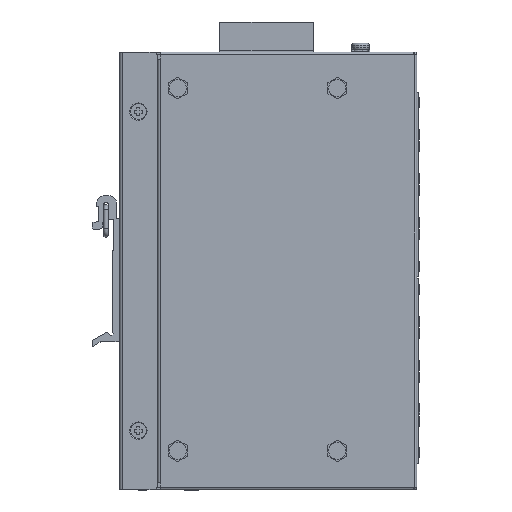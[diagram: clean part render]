
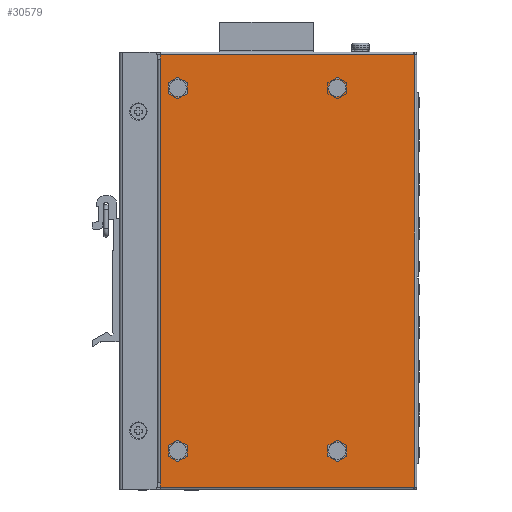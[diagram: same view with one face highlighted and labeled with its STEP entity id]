
A CAD part, left-side view. The second image highlights one B-rep face of the part: STEP entity #30579.
In plain terms, the highlighted planar face has unit normal (-1, 0, 0).
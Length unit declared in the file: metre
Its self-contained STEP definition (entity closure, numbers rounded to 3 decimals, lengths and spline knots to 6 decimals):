
#2657=LINE('',#52742,#5560);
#2660=LINE('',#52752,#5563);
#2754=LINE('',#53223,#5657);
#2758=LINE('',#53234,#5661);
#2761=LINE('',#53240,#5664);
#2763=LINE('',#53246,#5666);
#2768=LINE('',#53256,#5671);
#2769=LINE('',#53258,#5672);
#5560=VECTOR('',#41220,1.);
#5563=VECTOR('',#41229,1.);
#5657=VECTOR('',#41741,1.);
#5661=VECTOR('',#41753,1.);
#5664=VECTOR('',#41760,1.);
#5666=VECTOR('',#41768,1.);
#5671=VECTOR('',#41779,1.);
#5672=VECTOR('',#41782,1.);
#7139=PLANE('',#33757);
#14423=ORIENTED_EDGE('',*,*,#18935,.F.);
#14424=ORIENTED_EDGE('',*,*,#18933,.F.);
#14425=ORIENTED_EDGE('',*,*,#18931,.F.);
#14426=ORIENTED_EDGE('',*,*,#18929,.F.);
#14427=ORIENTED_EDGE('',*,*,#19221,.T.);
#14428=ORIENTED_EDGE('',*,*,#18994,.F.);
#14429=ORIENTED_EDGE('',*,*,#18989,.T.);
#14430=ORIENTED_EDGE('',*,*,#19214,.F.);
#14431=ORIENTED_EDGE('',*,*,#19211,.T.);
#14432=ORIENTED_EDGE('',*,*,#19208,.F.);
#14433=ORIENTED_EDGE('',*,*,#19202,.T.);
#14434=ORIENTED_EDGE('',*,*,#19220,.F.);
#18929=EDGE_CURVE('',#21973,#21973,#23503,.T.);
#18931=EDGE_CURVE('',#21975,#21975,#23505,.T.);
#18933=EDGE_CURVE('',#21977,#21977,#23507,.T.);
#18935=EDGE_CURVE('',#21979,#21979,#23509,.T.);
#18989=EDGE_CURVE('',#22017,#22018,#2657,.T.);
#18994=EDGE_CURVE('',#22017,#22021,#2660,.T.);
#19202=EDGE_CURVE('',#22189,#22188,#2754,.T.);
#19208=EDGE_CURVE('',#22189,#22191,#2758,.T.);
#19211=EDGE_CURVE('',#22193,#22191,#2761,.T.);
#19214=EDGE_CURVE('',#22193,#22018,#2763,.T.);
#19220=EDGE_CURVE('',#22195,#22188,#2768,.T.);
#19221=EDGE_CURVE('',#22195,#22021,#2769,.T.);
#21973=VERTEX_POINT('',#52618);
#21975=VERTEX_POINT('',#52623);
#21977=VERTEX_POINT('',#52628);
#21979=VERTEX_POINT('',#52633);
#22017=VERTEX_POINT('',#52743);
#22018=VERTEX_POINT('',#52744);
#22021=VERTEX_POINT('',#52753);
#22188=VERTEX_POINT('',#53220);
#22189=VERTEX_POINT('',#53224);
#22191=VERTEX_POINT('',#53231);
#22193=VERTEX_POINT('',#53241);
#22195=VERTEX_POINT('',#53255);
#23503=CIRCLE('',#33488,0.00275);
#23505=CIRCLE('',#33491,0.00275);
#23507=CIRCLE('',#33494,0.00275);
#23509=CIRCLE('',#33497,0.00275);
#25779=EDGE_LOOP('',(#14423));
#25780=EDGE_LOOP('',(#14424));
#25781=EDGE_LOOP('',(#14425));
#25782=EDGE_LOOP('',(#14426));
#25783=EDGE_LOOP('',(#14427,#14428,#14429,#14430,#14431,#14432,#14433,#14434));
#28199=FACE_BOUND('',#25779,.T.);
#28200=FACE_BOUND('',#25780,.T.);
#28201=FACE_BOUND('',#25781,.T.);
#28202=FACE_BOUND('',#25782,.T.);
#28203=FACE_BOUND('',#25783,.T.);
#30579=ADVANCED_FACE('',(#28199,#28200,#28201,#28202,#28203),#7139,.F.);
#33488=AXIS2_PLACEMENT_3D('',#52617,#41094,#41095);
#33491=AXIS2_PLACEMENT_3D('',#52622,#41100,#41101);
#33494=AXIS2_PLACEMENT_3D('',#52627,#41106,#41107);
#33497=AXIS2_PLACEMENT_3D('',#52632,#41112,#41113);
#33757=AXIS2_PLACEMENT_3D('',#53257,#41780,#41781);
#41094=DIRECTION('',(-1.,0.,0.));
#41095=DIRECTION('',(0.,1.,0.));
#41100=DIRECTION('',(-1.,0.,0.));
#41101=DIRECTION('',(0.,1.,0.));
#41106=DIRECTION('',(-1.,0.,0.));
#41107=DIRECTION('',(0.,1.,0.));
#41112=DIRECTION('',(-1.,0.,0.));
#41113=DIRECTION('',(0.,1.,0.));
#41220=DIRECTION('',(0.,0.,1.));
#41229=DIRECTION('',(0.,1.,0.));
#41741=DIRECTION('',(0.,0.,-1.));
#41753=DIRECTION('',(0.,0.,1.));
#41760=DIRECTION('',(0.,1.,0.));
#41768=DIRECTION('',(0.,-1.,0.));
#41779=DIRECTION('',(0.,0.,1.));
#41780=DIRECTION('',(1.,0.,0.));
#41781=DIRECTION('',(0.,1.,0.));
#41782=DIRECTION('',(0.,-1.,0.));
#52617=CARTESIAN_POINT('',(0.,-0.0216,-0.0575));
#52618=CARTESIAN_POINT('',(0.,-0.01885,-0.0575));
#52622=CARTESIAN_POINT('',(0.,0.0294,-0.0575));
#52623=CARTESIAN_POINT('',(0.,0.03215,-0.0575));
#52627=CARTESIAN_POINT('',(0.,-0.0216,0.0585));
#52628=CARTESIAN_POINT('',(0.,-0.01885,0.0585));
#52632=CARTESIAN_POINT('',(0.,0.0294,0.0585));
#52633=CARTESIAN_POINT('',(0.,0.03215,0.0585));
#52742=CARTESIAN_POINT('',(0.,-0.0462,-0.0692));
#52743=CARTESIAN_POINT('',(0.,-0.0462,-0.0692));
#52744=CARTESIAN_POINT('',(0.,-0.0462,0.0692));
#52752=CARTESIAN_POINT('',(0.,-0.0462,-0.0692));
#52753=CARTESIAN_POINT('',(0.,-0.046,-0.0692));
#53220=CARTESIAN_POINT('',(0.,0.035,-0.0677));
#53223=CARTESIAN_POINT('',(0.,0.035,0.0677));
#53224=CARTESIAN_POINT('',(0.,0.035,0.0677));
#53231=CARTESIAN_POINT('',(0.,0.035,0.0692));
#53234=CARTESIAN_POINT('',(0.,0.035,-0.0692));
#53240=CARTESIAN_POINT('',(0.,-0.046,0.0692));
#53241=CARTESIAN_POINT('',(0.,-0.046,0.0692));
#53246=CARTESIAN_POINT('',(0.,0.047,0.0692));
#53255=CARTESIAN_POINT('',(0.,0.035,-0.0692));
#53256=CARTESIAN_POINT('',(0.,0.035,-0.0692));
#53257=CARTESIAN_POINT('',(0.,0.,0.));
#53258=CARTESIAN_POINT('',(0.,0.035,-0.0692));
